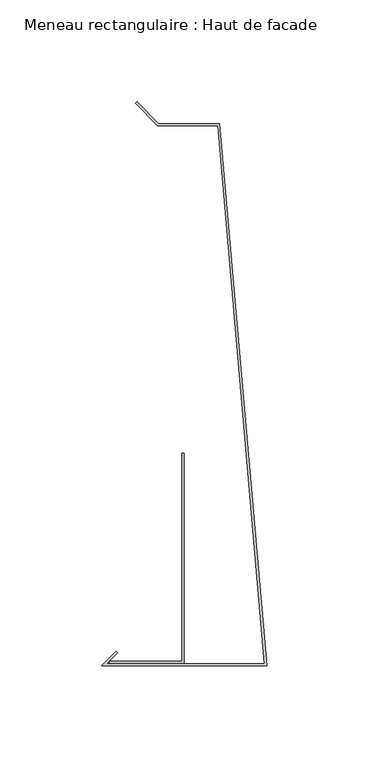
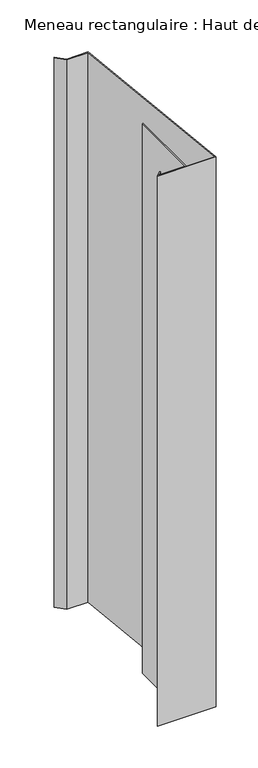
"""IFC4 building model written with IfcOpenShell, lengths in millimetres: member geometry, Meneau rectangulaire : Haut de facade."""

from ifc_helpers import new_model, si_unit, frame, origin, place, context, project, spatial, polyline, outline, extrude, source, transform, mapped, element, save


def meneau_rectangulaire_haut_de_facade_83064606(model_context):
    return source(origin(), model_context, "Body", "SweptSolid", [
        extrude(outline(polyline([(-24.0647895, 160.703755), (-53.5626719, 160.703755), (-64.4621669, 171.6032499), (-63.7550601, 172.3103567), (-53.1484584, 161.703755), (-23.1484584, 161.703755), (0.0, -104.2), (-81.0, -104.2), (-73.9289322, -97.1289322), (-73.2218254, -97.836039), (-78.5857864, -103.2), (-1.0913085, -103.2), (-24.0647895, 160.703755)])), frame((0.0, 0.0, -801.0), z_axis=(0.0, 0.0, 1.0), x_axis=(1.0, 0.0, 0.0)), (0.0, 0.0, 1.0), 801.0),
        extrude(outline(polyline([(-40.5477541, -102.9846816), (-77.0752814, -102.9846816), (-77.0752814, -101.9846816), (-41.5477541, -101.9846816), (-41.5477541, -0.0384227), (-40.5477541, -0.0384227), (-40.5477541, -102.9846816)])), frame((0.0, 0.0, -801.0), z_axis=(0.0, 0.0, 1.0), x_axis=(1.0, 0.0, 0.0)), (0.0, 0.0, 1.0), 801.0),
    ])


if __name__ == "__main__":
    model = new_model("IFC4")
    model_context = context("Model", 3, world=origin())
    ifc_project = project(units=[si_unit("LENGTHUNIT", "METRE", prefix="MILLI")], contexts=[model_context])
    site = spatial("IfcSite", under=ifc_project)
    building = spatial("IfcBuilding", under=site)
    placement = place(None, origin())
    meneau_rectangulaire_haut_de_facade_shape = meneau_rectangulaire_haut_de_facade_83064606(model_context)
    element("IfcMember", 1, ObjectType="Meneau rectangulaire : Haut de facade", at=placement, inside=building, context=model_context, shape_type="MappedRepresentation", body=[
        mapped(meneau_rectangulaire_haut_de_facade_shape, transform((0.0, 0.0, 0.0), x_axis=(1.0, 0.0, 0.0), y_axis=(0.0, 1.0, 0.0), z_axis=(0.0, 0.0, 1.0))),
    ])
    save(model, "model.ifc")
